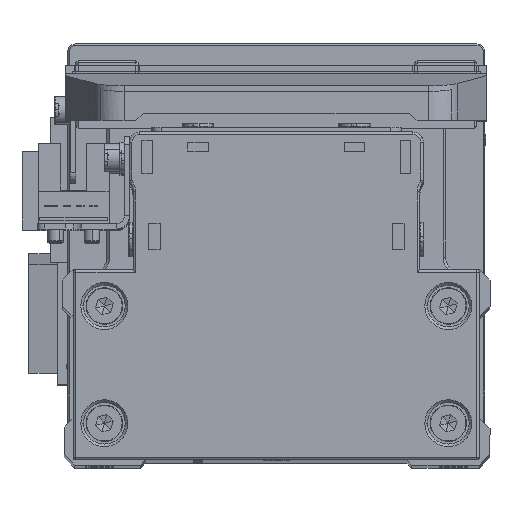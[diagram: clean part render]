
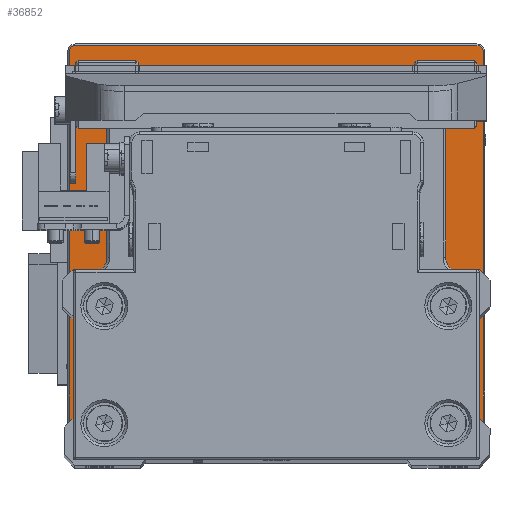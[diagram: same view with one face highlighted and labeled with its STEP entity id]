
A CAD part, top view. The second image highlights one B-rep face of the part: STEP entity #36852.
In plain terms, the highlighted planar face has unit normal (0, 0, 1) as drawn and (0, 1, 0) by its records, which use the part's own axes.
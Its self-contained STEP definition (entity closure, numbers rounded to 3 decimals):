
#71 = CARTESIAN_POINT ( 'NONE',  ( -39.7, 12., -38.5 ) ) ;
#280 = VERTEX_POINT ( 'NONE', #13292 ) ;
#456 = VERTEX_POINT ( 'NONE', #29494 ) ;
#1690 = LINE ( 'NONE', #13778, #37112 ) ;
#2361 = EDGE_CURVE ( 'NONE', #2372, #28996, #13643, .T. ) ;
#2372 = VERTEX_POINT ( 'NONE', #24034 ) ;
#2484 = CARTESIAN_POINT ( 'NONE',  ( 39.7, 12., 0. ) ) ;
#3118 = AXIS2_PLACEMENT_3D ( 'NONE', #8935, #20996, #33054 ) ;
#3356 = ORIENTED_EDGE ( 'NONE', *, *, #8952, .F. ) ;
#3839 = ORIENTED_EDGE ( 'NONE', *, *, #20843, .T. ) ;
#4058 = AXIS2_PLACEMENT_3D ( 'NONE', #13413, #25475, #37531 ) ;
#4275 = VECTOR ( 'NONE', #14565, 1000. ) ;
#4480 = CARTESIAN_POINT ( 'NONE',  ( 39.7, 12., 38.5 ) ) ;
#6070 = AXIS2_PLACEMENT_3D ( 'NONE', #37374, #10263, #22328 ) ;
#7210 = EDGE_CURVE ( 'NONE', #14269, #280, #21138, .T. ) ;
#7703 = DIRECTION ( 'NONE',  ( 0., 0., -1. ) ) ;
#8268 = CARTESIAN_POINT ( 'NONE',  ( 39.7, 12., -38.5 ) ) ;
#8718 = VERTEX_POINT ( 'NONE', #8268 ) ;
#8935 = CARTESIAN_POINT ( 'NONE',  ( 0., 12., 0. ) ) ;
#8952 = EDGE_CURVE ( 'NONE', #280, #14269, #37435, .T. ) ;
#9460 = DIRECTION ( 'NONE',  ( 1., 0., 0. ) ) ;
#9648 = ORIENTED_EDGE ( 'NONE', *, *, #2361, .T. ) ;
#9820 = CARTESIAN_POINT ( 'NONE',  ( 0., 12., 0. ) ) ;
#9885 = DIRECTION ( 'NONE',  ( -1., 0., 0. ) ) ;
#10106 = DIRECTION ( 'NONE',  ( 0., 1., 0. ) ) ;
#10263 = DIRECTION ( 'NONE',  ( 0., 1., 0. ) ) ;
#10416 = EDGE_CURVE ( 'NONE', #10622, #2372, #24911, .T. ) ;
#10478 = EDGE_CURVE ( 'NONE', #20254, #36282, #23140, .T. ) ;
#10622 = VERTEX_POINT ( 'NONE', #35380 ) ;
#11894 = FACE_OUTER_BOUND ( 'NONE', #35440, .T. ) ;
#12360 = EDGE_CURVE ( 'NONE', #36282, #8718, #29597, .T. ) ;
#13292 = CARTESIAN_POINT ( 'NONE',  ( 0., 12., -20.5 ) ) ;
#13413 = CARTESIAN_POINT ( 'NONE',  ( 0., 12., 0. ) ) ;
#13643 = CIRCLE ( 'NONE', #18693, 1.2 ) ;
#13778 = CARTESIAN_POINT ( 'NONE',  ( -39.7, 12., 0. ) ) ;
#14269 = VERTEX_POINT ( 'NONE', #32977 ) ;
#14285 = AXIS2_PLACEMENT_3D ( 'NONE', #22744, #34802, #7703 ) ;
#14386 = CARTESIAN_POINT ( 'NONE',  ( -38.5, 12., -38.5 ) ) ;
#14565 = DIRECTION ( 'NONE',  ( 0., 0., -1. ) ) ;
#15733 = CARTESIAN_POINT ( 'NONE',  ( -38.5, 12., 39.7 ) ) ;
#17120 = ORIENTED_EDGE ( 'NONE', *, *, #36138, .T. ) ;
#18274 = EDGE_CURVE ( 'NONE', #28996, #456, #1690, .T. ) ;
#18332 = AXIS2_PLACEMENT_3D ( 'NONE', #37208, #10106, #22175 ) ;
#18693 = AXIS2_PLACEMENT_3D ( 'NONE', #14386, #26459, #38526 ) ;
#20254 = VERTEX_POINT ( 'NONE', #34072 ) ;
#20377 = AXIS2_PLACEMENT_3D ( 'NONE', #9820, #21897, #33957 ) ;
#20609 = ORIENTED_EDGE ( 'NONE', *, *, #18274, .T. ) ;
#20843 = EDGE_CURVE ( 'NONE', #8718, #10622, #31349, .T. ) ;
#20996 = DIRECTION ( 'NONE',  ( 0., -1., 0. ) ) ;
#21138 = CIRCLE ( 'NONE', #4058, 20.5 ) ;
#21897 = DIRECTION ( 'NONE',  ( 0., 1., 0. ) ) ;
#22175 = DIRECTION ( 'NONE',  ( 0., 0., -1. ) ) ;
#22328 = DIRECTION ( 'NONE',  ( 0., 0., -1. ) ) ;
#22744 = CARTESIAN_POINT ( 'NONE',  ( 38.5, 12., -38.5 ) ) ;
#23140 = CIRCLE ( 'NONE', #6070, 1.2 ) ;
#23967 = FACE_BOUND ( 'NONE', #31240, .T. ) ;
#24034 = CARTESIAN_POINT ( 'NONE',  ( -38.5, 12., -39.7 ) ) ;
#24437 = VERTEX_POINT ( 'NONE', #15733 ) ;
#24498 = LINE ( 'NONE', #36562, #32962 ) ;
#24911 = LINE ( 'NONE', #36981, #25028 ) ;
#25020 = ORIENTED_EDGE ( 'NONE', *, *, #10416, .T. ) ;
#25028 = VECTOR ( 'NONE', #9885, 1000. ) ;
#25475 = DIRECTION ( 'NONE',  ( 0., 1., 0. ) ) ;
#25844 = DIRECTION ( 'NONE',  ( 0., 0., 1. ) ) ;
#26459 = DIRECTION ( 'NONE',  ( 0., 1., 0. ) ) ;
#27641 = ORIENTED_EDGE ( 'NONE', *, *, #12360, .T. ) ;
#27704 = EDGE_CURVE ( 'NONE', #456, #24437, #35376, .T. ) ;
#28854 = ORIENTED_EDGE ( 'NONE', *, *, #27704, .T. ) ;
#28996 = VERTEX_POINT ( 'NONE', #71 ) ;
#29052 = ORIENTED_EDGE ( 'NONE', *, *, #10478, .T. ) ;
#29321 = ORIENTED_EDGE ( 'NONE', *, *, #7210, .F. ) ;
#29494 = CARTESIAN_POINT ( 'NONE',  ( -39.7, 12., 38.5 ) ) ;
#29597 = LINE ( 'NONE', #2484, #4275 ) ;
#31240 = EDGE_LOOP ( 'NONE', ( #29321, #3356 ) ) ;
#31349 = CIRCLE ( 'NONE', #14285, 1.2 ) ;
#32962 = VECTOR ( 'NONE', #9460, 1000. ) ;
#32977 = CARTESIAN_POINT ( 'NONE',  ( 0., 12., 20.5 ) ) ;
#33054 = DIRECTION ( 'NONE',  ( 0., 0., -1. ) ) ;
#33957 = DIRECTION ( 'NONE',  ( 0., 0., 1. ) ) ;
#34072 = CARTESIAN_POINT ( 'NONE',  ( 38.5, 12., 39.7 ) ) ;
#34802 = DIRECTION ( 'NONE',  ( 0., 1., 0. ) ) ;
#35376 = CIRCLE ( 'NONE', #18332, 1.2 ) ;
#35380 = CARTESIAN_POINT ( 'NONE',  ( 38.5, 12., -39.7 ) ) ;
#35440 = EDGE_LOOP ( 'NONE', ( #3839, #25020, #9648, #20609, #28854, #17120, #29052, #27641 ) ) ;
#36027 = PLANE ( 'NONE',  #3118 ) ;
#36138 = EDGE_CURVE ( 'NONE', #24437, #20254, #24498, .T. ) ;
#36282 = VERTEX_POINT ( 'NONE', #4480 ) ;
#36562 = CARTESIAN_POINT ( 'NONE',  ( 0., 12., 39.7 ) ) ;
#36852 = ADVANCED_FACE ( 'NONE', ( #11894, #23967 ), #36027, .F. ) ;
#36981 = CARTESIAN_POINT ( 'NONE',  ( 0., 12., -39.7 ) ) ;
#37112 = VECTOR ( 'NONE', #25844, 1000. ) ;
#37208 = CARTESIAN_POINT ( 'NONE',  ( -38.5, 12., 38.5 ) ) ;
#37374 = CARTESIAN_POINT ( 'NONE',  ( 38.5, 12., 38.5 ) ) ;
#37435 = CIRCLE ( 'NONE', #20377, 20.5 ) ;
#37531 = DIRECTION ( 'NONE',  ( 0., 0., 1. ) ) ;
#38526 = DIRECTION ( 'NONE',  ( 0., 0., -1. ) ) ;
